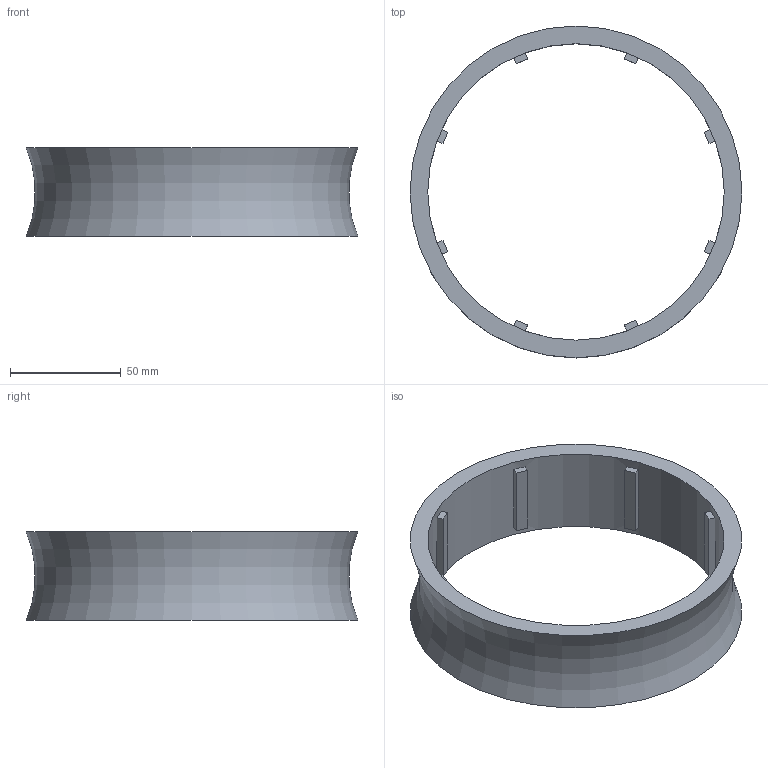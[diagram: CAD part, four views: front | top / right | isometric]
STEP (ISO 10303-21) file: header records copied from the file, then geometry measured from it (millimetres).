
FILE_DESCRIPTION(('Open CASCADE Model'),'2;1');
FILE_NAME('Open CASCADE Shape Model','2026-10-06T19:56:08',('Author'),( 'Open CASCADE'),'Open CASCADE STEP processor 7.9','Open CASCADE 7.9' ,'Unknown');
FILE_SCHEMA(('AUTOMOTIVE_DESIGN { 1 0 10303 214 1 1 1 1 }'));
Length unit declared in the file: millimetre
Products named in the file (1): Open CASCADE STEP translator 7.9 9
Bounding box: 150 x 150 x 40 mm (x, y, z)
Volume: 95495.4 mm3; surface area: 44483.9 mm2
Topology: 1 solids, 1 shells, 44 faces, 102 edges, 68 vertices
Faces by surface type: plane 42, cylinder 1, torus 1
Full cylindrical faces by diameter (mm): 134 x1
Entity records: 2593 total; most frequent: CARTESIAN_POINT 431, DIRECTION 415, LINE 265, VECTOR 265, ORIENTED_EDGE 204, PCURVE 204, DEFINITIONAL_REPRESENTATION 204, EDGE_CURVE 102
